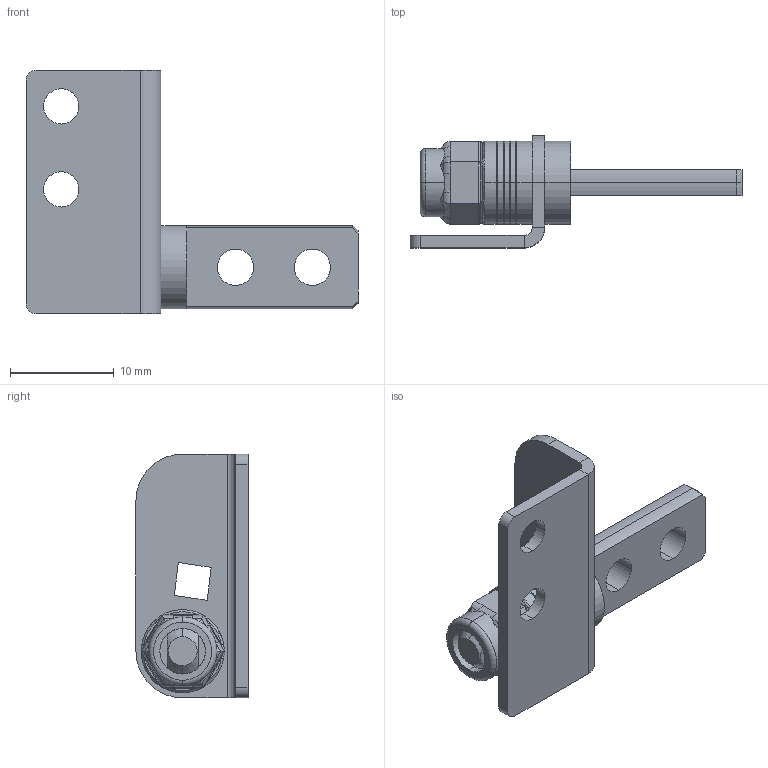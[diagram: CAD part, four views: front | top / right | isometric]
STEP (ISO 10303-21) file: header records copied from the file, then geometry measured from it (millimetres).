
FILE_DESCRIPTION (( 'STEP AP214' ), '1' );
FILE_NAME ('HG-036.STEP', '2020-05-08T01:51:58', ( 'China' ), ( 'Microsoft' ), 'SwSTEP 2.0', 'SolidWorks 2018', '' );
FILE_SCHEMA (( 'AUTOMOTIVE_DESIGN' ));
Length unit declared in the file: millimetre
Products named in the file (1): HG-036
Bounding box: 32 x 10.8 x 23.5 mm (x, y, z)
Volume: 1426.7 mm3; surface area: 1942.6 mm2
Topology: 3 solids, 3 shells, 173 faces, 394 edges, 239 vertices
Faces by surface type: plane 68, cylinder 67, bspline 24, cone 12, torus 2
Entity records: 5933 total; most frequent: CARTESIAN_POINT 2207, ORIENTED_EDGE 788, DIRECTION 718, EDGE_CURVE 394, AXIS2_PLACEMENT_3D 280, VERTEX_POINT 239, EDGE_LOOP 195, ADVANCED_FACE 173
